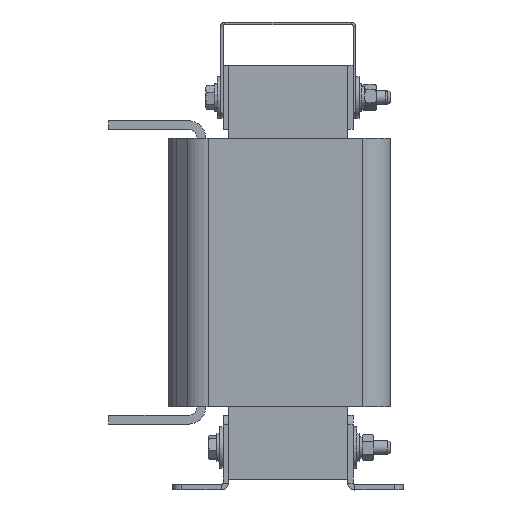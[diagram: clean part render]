
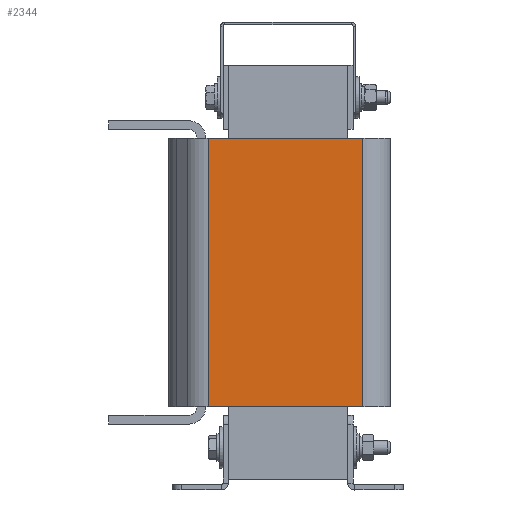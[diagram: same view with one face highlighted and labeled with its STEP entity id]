
A CAD part, left-side view. The second image highlights one B-rep face of the part: STEP entity #2344.
In plain terms, the highlighted planar face has unit normal (-1, 0, 0).
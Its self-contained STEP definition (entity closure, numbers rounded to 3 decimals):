
#2344=ADVANCED_FACE('',(#3449),#3451,.T.);
#3449=FACE_BOUND('',#3450,.T.);
#3450=EDGE_LOOP('',(#4587,#4588,#4589,#4590));
#3451=PLANE('',#3452);
#3452=AXIS2_PLACEMENT_3D('',#3453,#3454,#3455);
#3453=CARTESIAN_POINT('',(-39.5,46.087,0.));
#3454=DIRECTION('',(-1.,0.,0.));
#3455=DIRECTION('',(0.,-1.,0.));
#4587=ORIENTED_EDGE('',*,*,#5121,.T.);
#4588=ORIENTED_EDGE('',*,*,#5157,.T.);
#4589=ORIENTED_EDGE('',*,*,#5136,.F.);
#4590=ORIENTED_EDGE('',*,*,#5158,.F.);
#5121=EDGE_CURVE('',#5611,#5609,#5612,.T.);
#5136=EDGE_CURVE('',#5639,#5641,#5642,.T.);
#5157=EDGE_CURVE('',#5609,#5641,#5672,.T.);
#5158=EDGE_CURVE('',#5611,#5639,#5673,.T.);
#5609=VERTEX_POINT('',#6607);
#5611=VERTEX_POINT('',#6612);
#5612=LINE('',#6613,#6614);
#5639=VERTEX_POINT('',#6673);
#5641=VERTEX_POINT('',#6678);
#5642=LINE('',#6679,#6680);
#5672=LINE('',#6754,#6755);
#5673=LINE('',#6757,#6758);
#6607=CARTESIAN_POINT('',(-39.5,-43.,0.));
#6612=CARTESIAN_POINT('',(-39.5,46.087,0.));
#6613=CARTESIAN_POINT('',(-39.5,46.087,0.));
#6614=VECTOR('',#6615,1.);
#6615=DIRECTION('',(0.,-1.,0.));
#6673=CARTESIAN_POINT('',(-39.5,46.087,155.));
#6678=CARTESIAN_POINT('',(-39.5,-43.,155.));
#6679=CARTESIAN_POINT('',(-39.5,46.087,155.));
#6680=VECTOR('',#6681,1.);
#6681=DIRECTION('',(0.,-1.,0.));
#6754=CARTESIAN_POINT('',(-39.5,-43.,0.));
#6755=VECTOR('',#6756,1.);
#6756=DIRECTION('',(0.,0.,1.));
#6757=CARTESIAN_POINT('',(-39.5,46.087,0.));
#6758=VECTOR('',#6759,1.);
#6759=DIRECTION('',(0.,0.,1.));
